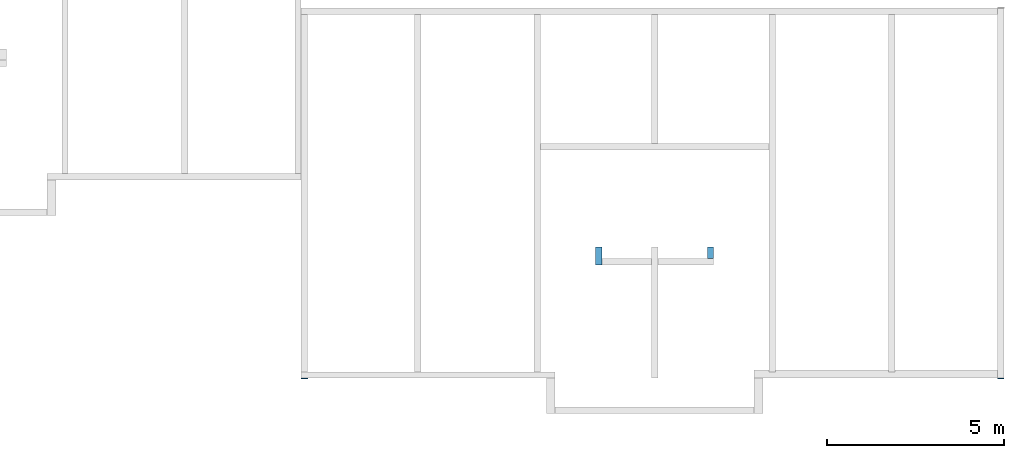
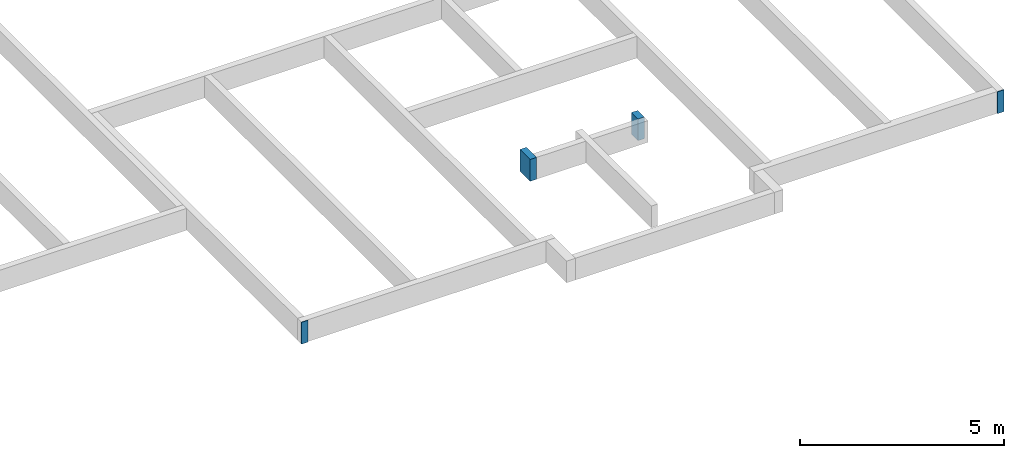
# One storey, part 5 of 6: 4 walls.
"""IFC2X3 building model written with IfcOpenShell, lengths in millimetres."""

from ifc_helpers import new_model, entity, si_unit, converted_unit, frame, frame_2d, origin, origin_with_axes, place, context, subcontext, project, spatial, rectangle, extrude, material, layer, layer_set, layer_usage, element, save


model = new_model("IFC2X3")

# Units and contexts
model_context = context("Model", 3, precision=1e-05, world=origin())
plan_context = context("Plan", 3, precision=1e-05, world=origin())
body_context = subcontext(model_context, "Body", "Model", "MODEL_VIEW")
ifc_project = project(units=[si_unit("LENGTHUNIT", "METRE", prefix="MILLI"), converted_unit("PLANEANGLEUNIT", "DEGREE", entity("IfcPlaneAngleMeasure", 0.0174532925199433), si_unit("PLANEANGLEUNIT", "RADIAN"), dimensions=[0, 0, 0, 0, 0, 0, 0]), si_unit("AREAUNIT", "SQUARE_METRE"), si_unit("VOLUMEUNIT", "CUBIC_METRE")], contexts=[model_context, plan_context])

# Building, storey
building_placement = place(None, origin())
building = spatial("IfcBuilding", under=ifc_project, at=building_placement, Name="Bâtiment", CompositionType="ELEMENT")
storey_placement = place(building_placement, frame((0.0, 0.0, -850.0), z_axis=(0.0, 0.0, 1.0), x_axis=(1.0, 0.0, 0.0)))
storey = spatial("IfcBuildingStorey", under=building, at=storey_placement, Name="vs", CompositionType="ELEMENT", Elevation=-850.0)

# Walls
ifc_material_1 = material(Name="moellons")
ifc_layer_1 = layer(ifc_material_1, 20.0775509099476)
ifc_layer_set_1 = layer_set([ifc_layer_1])
ifc_layer_usage_1 = layer_usage(ifc_layer_set_1, "AXIS2", "POSITIVE", 0.0)
wall_1_placement = place(storey_placement, frame((39699.99999999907, -5579.922449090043, 0.0), z_axis=(0.0, 0.0, 1.0), x_axis=(1.0, 0.0, 0.0)))
element("IfcWallStandardCase", 1, at=wall_1_placement, inside=storey, material=ifc_layer_usage_1, context=body_context, shape_type="SweptSolid", body=[
    extrude(rectangle(XDim=180.0, YDim=20.0775509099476, at=frame_2d((90.0, 10.0387754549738), x_axis=(1.0, 0.0))), frame((0.0, -20.0775509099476, 0.0), z_axis=(0.0, 0.0, 1.0), x_axis=(1.0, 0.0, 0.0)), (0.0, 0.0, 1.0), 650.0),
])
ifc_material_2 = material(Name="moellons")
ifc_layer_2 = layer(ifc_material_2, 20.16279356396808)
ifc_layer_set_2 = layer_set([ifc_layer_2])
ifc_layer_usage_2 = layer_usage(ifc_layer_set_2, "AXIS2", "POSITIVE", 0.0)
wall_2_placement = place(storey_placement, frame((59549.9999999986, -5599.999999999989, 0.0), z_axis=(0.0, 0.0, 1.0), x_axis=(-1.0, 0.0, 0.0)))
element("IfcWallStandardCase", 2, at=wall_2_placement, inside=storey, material=ifc_layer_usage_2, context=body_context, shape_type="SweptSolid", body=[
    extrude(rectangle(XDim=180.0, YDim=20.16279356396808, at=frame_2d((90.0, 10.08139678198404), x_axis=(1.0, 0.0))), frame((0.0, -20.16279356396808, 0.0), z_axis=(0.0, 0.0, 1.0), x_axis=(1.0, 0.0, 0.0)), (0.0, 0.0, 1.0), 650.0),
])
ifc_material_3 = material(Name="moellons")
ifc_layer_3 = layer(ifc_material_3, 180.0)
ifc_layer_set_3 = layer_set([ifc_layer_3])
ifc_layer_usage_3 = layer_usage(ifc_layer_set_3, "AXIS2", "POSITIVE", 0.0)
wall_3_placement = place(storey_placement, frame((48199.99945313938, -2379.922234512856, 0.0), z_axis=(0.0, 0.0, 1.0), x_axis=(0.0, 1.0, 0.0)))
element("IfcWallStandardCase", 3, at=wall_3_placement, inside=storey, material=ifc_layer_usage_3, context=body_context, shape_type="SweptSolid", body=[
    extrude(rectangle(XDim=500.0, YDim=180.0, at=frame_2d((250.0, 90.0), x_axis=(1.0, 0.0))), origin_with_axes(), (0.0, 0.0, 1.0), 650.0),
])
ifc_material_4 = material(Name="moellons")
ifc_layer_4 = layer(ifc_material_4, 180.0)
ifc_layer_set_4 = layer_set([ifc_layer_4])
ifc_layer_usage_4 = layer_usage(ifc_layer_set_4, "AXIS2", "POSITIVE", 0.0)
wall_4_placement = place(storey_placement, frame((51169.9994531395, -1879.922234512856, 0.0), z_axis=(0.0, 0.0, 1.0), x_axis=(0.0, -1.0, 0.0)))
element("IfcWallStandardCase", 4, at=wall_4_placement, inside=storey, material=ifc_layer_usage_4, context=body_context, shape_type="SweptSolid", body=[
    extrude(rectangle(XDim=320.0, YDim=180.0, at=frame_2d((160.0, 90.0), x_axis=(1.0, 0.0))), origin_with_axes(), (0.0, 0.0, 1.0), 650.0),
])

save(model, "model.ifc")
